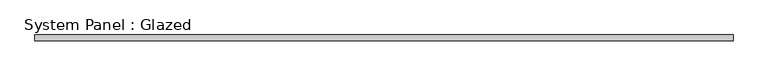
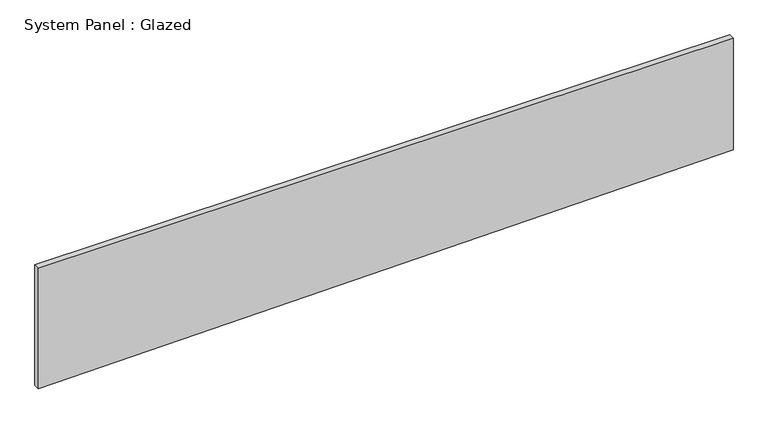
"""IFC4 building model written with IfcOpenShell, lengths in millimetres: plate geometry, System Panel : Glazed."""

from ifc_helpers import new_model, si_unit, frame, origin, place, context, project, spatial, polyline, outline, extrude, source, transform, mapped, element, save


def system_panel_glazed_45f33731(model_context):
    return source(origin(), model_context, "Body", "SweptSolid", [
        extrude(outline(polyline([(0.0, -1504.95), (40.7557981, 1504.95), (551.696361, 1504.95), (551.696361, -1504.95), (0.0, -1504.95)])), frame((0.0, 19.05, 0.0), z_axis=(0.0, 1.0, 0.0), x_axis=(0.0, 0.0, 1.0)), (0.0, 0.0, 1.0), 25.4),
    ])


if __name__ == "__main__":
    model = new_model("IFC4")
    model_context = context("Model", 3, world=origin())
    ifc_project = project(units=[si_unit("LENGTHUNIT", "METRE", prefix="MILLI")], contexts=[model_context])
    site = spatial("IfcSite", under=ifc_project)
    building = spatial("IfcBuilding", under=site)
    placement = place(None, origin())
    system_panel_glazed_shape = system_panel_glazed_45f33731(model_context)
    element("IfcPlate", 1, ObjectType="System Panel : Glazed", at=placement, inside=building, context=model_context, shape_type="MappedRepresentation", body=[
        mapped(system_panel_glazed_shape, transform((0.0, 0.0, 0.0), x_axis=(1.0, 0.0, 0.0), y_axis=(0.0, 1.0, 0.0), z_axis=(0.0, 0.0, 1.0))),
    ])
    save(model, "model.ifc")
